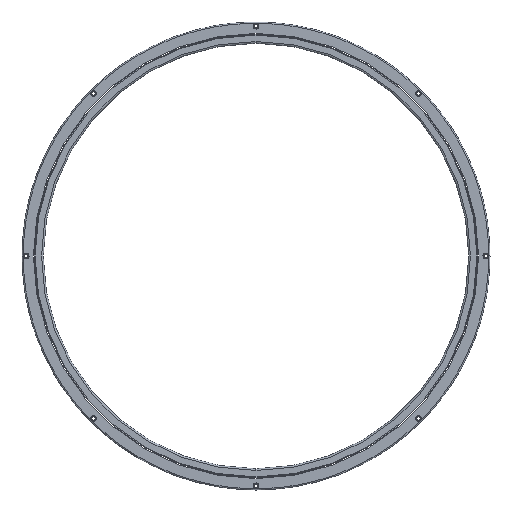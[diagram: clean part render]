
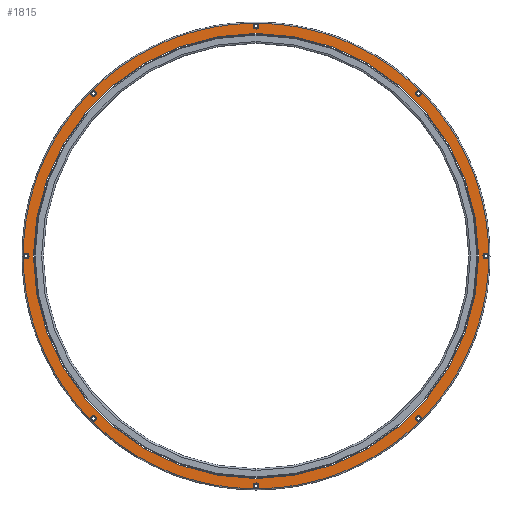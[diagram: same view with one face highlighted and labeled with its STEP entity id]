
A CAD part, front view. The second image highlights one B-rep face of the part: STEP entity #1815.
In plain terms, the highlighted planar face has unit normal (0, -1, 0).
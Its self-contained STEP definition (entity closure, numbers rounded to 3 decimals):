
#355=CARTESIAN_POINT('',(0.,0.,0.));
#356=DIRECTION('',(0.,-1.,0.));
#357=DIRECTION('',(-1.,0.,0.));
#358=AXIS2_PLACEMENT_3D('',#355,#356,#357);
#360=CARTESIAN_POINT('',(0.,0.,0.));
#361=DIRECTION('',(0.,1.,0.));
#362=DIRECTION('',(-1.,0.,0.));
#363=AXIS2_PLACEMENT_3D('',#360,#361,#362);
#365=CARTESIAN_POINT('',(-270.,0.,0.));
#366=DIRECTION('',(0.,1.,0.));
#367=DIRECTION('',(1.,0.,0.));
#368=AXIS2_PLACEMENT_3D('',#365,#366,#367);
#370=CARTESIAN_POINT('',(-270.,0.,0.));
#371=DIRECTION('',(0.,1.,0.));
#372=DIRECTION('',(-1.,0.,0.));
#373=AXIS2_PLACEMENT_3D('',#370,#371,#372);
#375=CARTESIAN_POINT('',(-190.919,0.,190.919));
#376=DIRECTION('',(0.,1.,0.));
#377=DIRECTION('',(0.707,0.,-0.707));
#378=AXIS2_PLACEMENT_3D('',#375,#376,#377);
#380=CARTESIAN_POINT('',(-190.919,0.,190.919));
#381=DIRECTION('',(0.,1.,0.));
#382=DIRECTION('',(-0.707,0.,0.707));
#383=AXIS2_PLACEMENT_3D('',#380,#381,#382);
#385=CARTESIAN_POINT('',(0.,0.,270.));
#386=DIRECTION('',(0.,1.,0.));
#387=DIRECTION('',(0.,0.,-1.));
#388=AXIS2_PLACEMENT_3D('',#385,#386,#387);
#390=CARTESIAN_POINT('',(0.,0.,270.));
#391=DIRECTION('',(0.,1.,0.));
#392=DIRECTION('',(0.,0.,1.));
#393=AXIS2_PLACEMENT_3D('',#390,#391,#392);
#395=CARTESIAN_POINT('',(190.919,0.,190.919));
#396=DIRECTION('',(0.,1.,0.));
#397=DIRECTION('',(-0.707,0.,-0.707));
#398=AXIS2_PLACEMENT_3D('',#395,#396,#397);
#400=CARTESIAN_POINT('',(190.919,0.,190.919));
#401=DIRECTION('',(0.,1.,0.));
#402=DIRECTION('',(0.707,0.,0.707));
#403=AXIS2_PLACEMENT_3D('',#400,#401,#402);
#405=CARTESIAN_POINT('',(270.,0.,0.));
#406=DIRECTION('',(0.,1.,0.));
#407=DIRECTION('',(-1.,0.,0.));
#408=AXIS2_PLACEMENT_3D('',#405,#406,#407);
#410=CARTESIAN_POINT('',(270.,0.,0.));
#411=DIRECTION('',(0.,1.,0.));
#412=DIRECTION('',(1.,0.,0.));
#413=AXIS2_PLACEMENT_3D('',#410,#411,#412);
#415=CARTESIAN_POINT('',(190.919,0.,-190.919));
#416=DIRECTION('',(0.,1.,0.));
#417=DIRECTION('',(-0.707,0.,0.707));
#418=AXIS2_PLACEMENT_3D('',#415,#416,#417);
#420=CARTESIAN_POINT('',(190.919,0.,-190.919));
#421=DIRECTION('',(0.,1.,0.));
#422=DIRECTION('',(0.707,0.,-0.707));
#423=AXIS2_PLACEMENT_3D('',#420,#421,#422);
#425=CARTESIAN_POINT('',(0.,0.,-270.));
#426=DIRECTION('',(0.,1.,0.));
#427=DIRECTION('',(0.,0.,1.));
#428=AXIS2_PLACEMENT_3D('',#425,#426,#427);
#430=CARTESIAN_POINT('',(0.,0.,-270.));
#431=DIRECTION('',(0.,1.,0.));
#432=DIRECTION('',(0.,0.,-1.));
#433=AXIS2_PLACEMENT_3D('',#430,#431,#432);
#435=CARTESIAN_POINT('',(-190.919,0.,-190.919));
#436=DIRECTION('',(0.,1.,0.));
#437=DIRECTION('',(0.707,0.,0.707));
#438=AXIS2_PLACEMENT_3D('',#435,#436,#437);
#440=CARTESIAN_POINT('',(-190.919,0.,-190.919));
#441=DIRECTION('',(0.,1.,0.));
#442=DIRECTION('',(-0.707,0.,-0.707));
#443=AXIS2_PLACEMENT_3D('',#440,#441,#442);
#445=CARTESIAN_POINT('',(0.,0.,0.));
#446=DIRECTION('',(0.,1.,0.));
#447=DIRECTION('',(1.,0.,0.));
#448=AXIS2_PLACEMENT_3D('',#445,#446,#447);
#450=CARTESIAN_POINT('',(0.,0.,0.));
#451=DIRECTION('',(0.,1.,0.));
#452=DIRECTION('',(-1.,0.,0.));
#453=AXIS2_PLACEMENT_3D('',#450,#451,#452);
#1138=CARTESIAN_POINT('',(-261.6,0.,0.));
#1140=VERTEX_POINT('',#1138);
#1150=CARTESIAN_POINT('',(261.6,0.,0.));
#1152=VERTEX_POINT('',#1150);
#1165=CARTESIAN_POINT('',(-266.75,0.,0.));
#1166=VERTEX_POINT('',#1165);
#1167=CARTESIAN_POINT('',(-273.25,0.,0.));
#1168=VERTEX_POINT('',#1167);
#1177=CARTESIAN_POINT('',(-188.621,0.,188.621));
#1178=VERTEX_POINT('',#1177);
#1179=CARTESIAN_POINT('',(-193.217,0.,193.217));
#1180=VERTEX_POINT('',#1179);
#1189=CARTESIAN_POINT('',(0.,0.,266.75));
#1190=VERTEX_POINT('',#1189);
#1191=CARTESIAN_POINT('',(0.,0.,273.25));
#1192=VERTEX_POINT('',#1191);
#1201=CARTESIAN_POINT('',(188.621,0.,188.621));
#1202=VERTEX_POINT('',#1201);
#1203=CARTESIAN_POINT('',(193.217,0.,193.217));
#1204=VERTEX_POINT('',#1203);
#1213=CARTESIAN_POINT('',(266.75,0.,0.));
#1214=VERTEX_POINT('',#1213);
#1215=CARTESIAN_POINT('',(273.25,0.,0.));
#1216=VERTEX_POINT('',#1215);
#1225=CARTESIAN_POINT('',(188.621,0.,-188.621));
#1226=VERTEX_POINT('',#1225);
#1227=CARTESIAN_POINT('',(193.217,0.,-193.217));
#1228=VERTEX_POINT('',#1227);
#1237=CARTESIAN_POINT('',(0.,0.,-266.75));
#1238=VERTEX_POINT('',#1237);
#1239=CARTESIAN_POINT('',(0.,0.,-273.25));
#1240=VERTEX_POINT('',#1239);
#1249=CARTESIAN_POINT('',(-188.621,0.,-188.621));
#1250=VERTEX_POINT('',#1249);
#1251=CARTESIAN_POINT('',(-193.217,0.,-193.217));
#1252=VERTEX_POINT('',#1251);
#1273=CARTESIAN_POINT('',(273.5,0.,0.));
#1274=CARTESIAN_POINT('',(-273.5,0.,0.));
#1275=VERTEX_POINT('',#1273);
#1276=VERTEX_POINT('',#1274);
#1754=CARTESIAN_POINT('',(0.,0.,0.));
#1755=DIRECTION('',(0.,1.,0.));
#1756=DIRECTION('',(1.,0.,0.));
#1757=AXIS2_PLACEMENT_3D('',#1754,#1755,#1756);
#1758=PLANE('',#1757);
#1760=ORIENTED_EDGE('',*,*,#1759,.T.);
#1762=ORIENTED_EDGE('',*,*,#1761,.T.);
#1763=EDGE_LOOP('',(#1760,#1762));
#1764=FACE_OUTER_BOUND('',#1763,.F.);
#1765=ORIENTED_EDGE('',*,*,#1733,.F.);
#1766=ORIENTED_EDGE('',*,*,#1749,.F.);
#1767=EDGE_LOOP('',(#1765,#1766));
#1768=FACE_BOUND('',#1767,.F.);
#1770=ORIENTED_EDGE('',*,*,#1769,.F.);
#1772=ORIENTED_EDGE('',*,*,#1771,.F.);
#1773=EDGE_LOOP('',(#1770,#1772));
#1774=FACE_BOUND('',#1773,.F.);
#1776=ORIENTED_EDGE('',*,*,#1775,.F.);
#1778=ORIENTED_EDGE('',*,*,#1777,.F.);
#1779=EDGE_LOOP('',(#1776,#1778));
#1780=FACE_BOUND('',#1779,.F.);
#1782=ORIENTED_EDGE('',*,*,#1781,.F.);
#1784=ORIENTED_EDGE('',*,*,#1783,.F.);
#1785=EDGE_LOOP('',(#1782,#1784));
#1786=FACE_BOUND('',#1785,.F.);
#1788=ORIENTED_EDGE('',*,*,#1787,.F.);
#1790=ORIENTED_EDGE('',*,*,#1789,.F.);
#1791=EDGE_LOOP('',(#1788,#1790));
#1792=FACE_BOUND('',#1791,.F.);
#1794=ORIENTED_EDGE('',*,*,#1793,.F.);
#1796=ORIENTED_EDGE('',*,*,#1795,.F.);
#1797=EDGE_LOOP('',(#1794,#1796));
#1798=FACE_BOUND('',#1797,.F.);
#1800=ORIENTED_EDGE('',*,*,#1799,.F.);
#1802=ORIENTED_EDGE('',*,*,#1801,.F.);
#1803=EDGE_LOOP('',(#1800,#1802));
#1804=FACE_BOUND('',#1803,.F.);
#1806=ORIENTED_EDGE('',*,*,#1805,.F.);
#1808=ORIENTED_EDGE('',*,*,#1807,.F.);
#1809=EDGE_LOOP('',(#1806,#1808));
#1810=FACE_BOUND('',#1809,.F.);
#1811=ORIENTED_EDGE('',*,*,#1302,.T.);
#1812=ORIENTED_EDGE('',*,*,#1284,.F.);
#1813=EDGE_LOOP('',(#1811,#1812));
#1814=FACE_BOUND('',#1813,.F.);
#359=CIRCLE('',#358,261.6);
#364=CIRCLE('',#363,261.6);
#369=CIRCLE('',#368,3.25);
#374=CIRCLE('',#373,3.25);
#379=CIRCLE('',#378,3.25);
#384=CIRCLE('',#383,3.25);
#389=CIRCLE('',#388,3.25);
#394=CIRCLE('',#393,3.25);
#399=CIRCLE('',#398,3.25);
#404=CIRCLE('',#403,3.25);
#409=CIRCLE('',#408,3.25);
#414=CIRCLE('',#413,3.25);
#419=CIRCLE('',#418,3.25);
#424=CIRCLE('',#423,3.25);
#429=CIRCLE('',#428,3.25);
#434=CIRCLE('',#433,3.25);
#439=CIRCLE('',#438,3.25);
#444=CIRCLE('',#443,3.25);
#449=CIRCLE('',#448,273.5);
#454=CIRCLE('',#453,273.5);
#1284=EDGE_CURVE('',#1140,#1152,#364,.T.);
#1302=EDGE_CURVE('',#1140,#1152,#359,.T.);
#1733=EDGE_CURVE('',#1166,#1168,#369,.T.);
#1749=EDGE_CURVE('',#1168,#1166,#374,.T.);
#1759=EDGE_CURVE('',#1275,#1276,#449,.T.);
#1761=EDGE_CURVE('',#1276,#1275,#454,.T.);
#1769=EDGE_CURVE('',#1178,#1180,#379,.T.);
#1771=EDGE_CURVE('',#1180,#1178,#384,.T.);
#1775=EDGE_CURVE('',#1190,#1192,#389,.T.);
#1777=EDGE_CURVE('',#1192,#1190,#394,.T.);
#1781=EDGE_CURVE('',#1202,#1204,#399,.T.);
#1783=EDGE_CURVE('',#1204,#1202,#404,.T.);
#1787=EDGE_CURVE('',#1214,#1216,#409,.T.);
#1789=EDGE_CURVE('',#1216,#1214,#414,.T.);
#1793=EDGE_CURVE('',#1226,#1228,#419,.T.);
#1795=EDGE_CURVE('',#1228,#1226,#424,.T.);
#1799=EDGE_CURVE('',#1238,#1240,#429,.T.);
#1801=EDGE_CURVE('',#1240,#1238,#434,.T.);
#1805=EDGE_CURVE('',#1250,#1252,#439,.T.);
#1807=EDGE_CURVE('',#1252,#1250,#444,.T.);
#1815=ADVANCED_FACE('',(#1764,#1768,#1774,#1780,#1786,#1792,#1798,#1804,#1810,
#1814),#1758,.F.);
